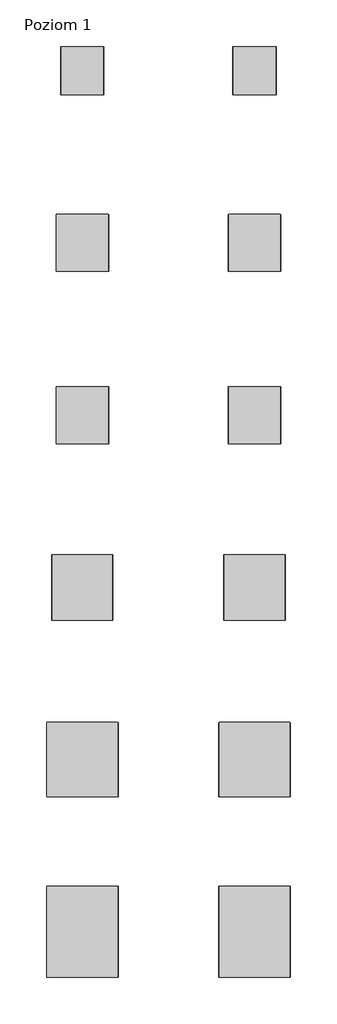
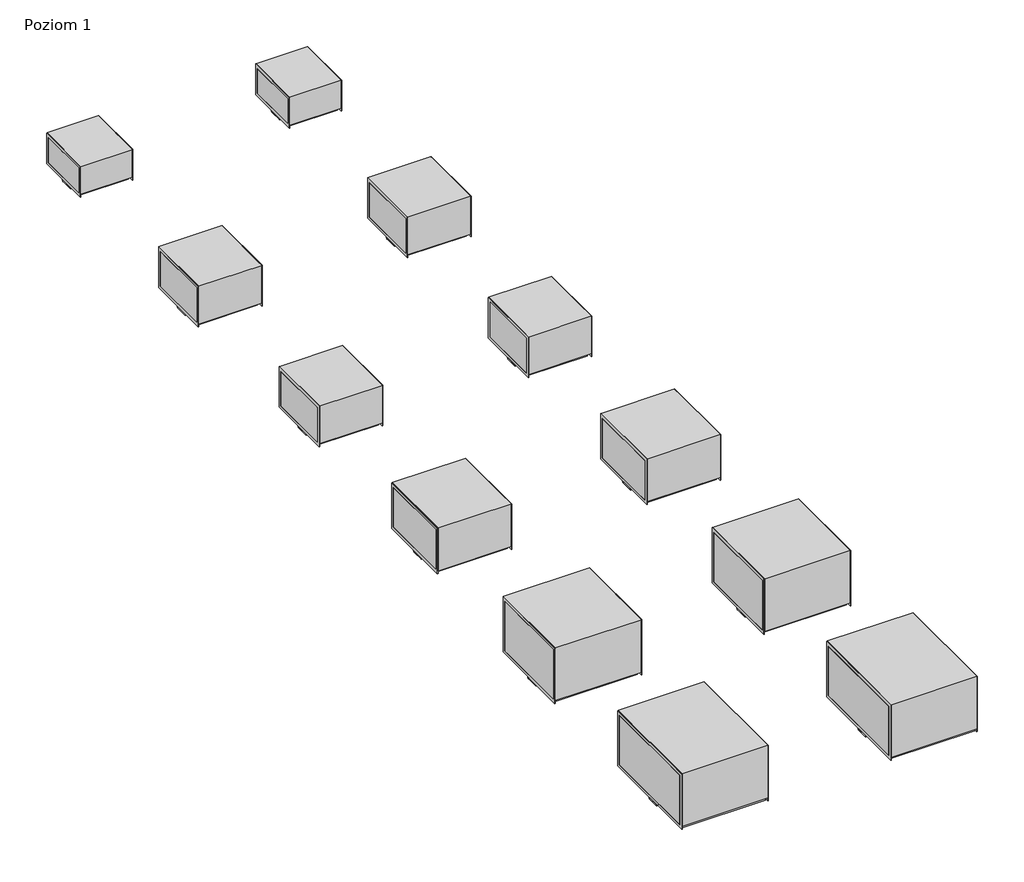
# One storey: 12 unitary equipment elements.
"""IFC4 building model written with IfcOpenShell, lengths in millimetres."""

from ifc_helpers import new_model, si_unit, origin, place, context, project, spatial, transform, mapped, element, save
from components import unitary_equipment_6650e67d, unitary_equipment_f6c58911, unitary_equipment_9d74fd59, unitary_equipment_093180e0, unitary_equipment_98ae8f91

model = new_model("IFC4")

# Units and contexts
model_context = context("Model", 3, world=origin())
ifc_project = project(units=[si_unit("LENGTHUNIT", "METRE", prefix="MILLI")], contexts=[model_context])

# Site, building, storey
site = spatial("IfcSite", under=ifc_project)
building = spatial("IfcBuilding", under=site)
storey = spatial("IfcBuildingStorey", under=building, Name="Poziom 1", Elevation=0.0)

# Unitary equipment
placement = place(None, origin())
unitary_equipment_shape = unitary_equipment_6650e67d(model_context)
element("IfcUnitaryEquipment", 1, ObjectType="VE-Wentylator-ParaForma-Harmann-DRBI_EC-Nawiewny : 050/25/1750EC", at=placement, inside=storey, context=model_context, shape_type="MappedRepresentation", body=[
    mapped(unitary_equipment_shape, transform((6582.5, 3000.0, 0.0), x_axis=(1.0, 0.0, 0.0), y_axis=(0.0, 1.0, 0.0), z_axis=(0.0, 0.0, 1.0))),
])
unitary_equipment_2_shape = unitary_equipment_f6c58911(model_context)
element("IfcUnitaryEquipment", 2, ObjectType="VE-Wentylator-ParaForma-Harmann-DRBI_EC-Nawiewny : 060/35/2800EC", at=placement, inside=storey, context=model_context, shape_type="MappedRepresentation", body=[
    mapped(unitary_equipment_2_shape, transform((6582.5, 1000.0, 0.0), x_axis=(1.0, 0.0, 0.0), y_axis=(0.0, 1.0, 0.0), z_axis=(0.0, 0.0, 1.0))),
])
element("IfcUnitaryEquipment", 3, ObjectType="VE-Wentylator-ParaForma-Harmann-DRBI_EC-Nawiewny : 060/35/4300EC", at=placement, inside=storey, context=model_context, shape_type="MappedRepresentation", body=[
    mapped(unitary_equipment_2_shape, transform((6582.5, -1000.0, 0.0), x_axis=(1.0, 0.0, 0.0), y_axis=(0.0, 1.0, 0.0), z_axis=(0.0, 0.0, 1.0))),
])
unitary_equipment_3_shape = unitary_equipment_9d74fd59(model_context)
element("IfcUnitaryEquipment", 4, ObjectType="VE-Wentylator-ParaForma-Harmann-DRBI_EC-Nawiewny : 070/40/4900EC", at=placement, inside=storey, context=model_context, shape_type="MappedRepresentation", body=[
    mapped(unitary_equipment_3_shape, transform((6582.5, -3000.0, 0.0), x_axis=(1.0, 0.0, 0.0), y_axis=(0.0, 1.0, 0.0), z_axis=(0.0, 0.0, 1.0))),
])
unitary_equipment_4_shape = unitary_equipment_093180e0(model_context)
element("IfcUnitaryEquipment", 5, ObjectType="VE-Wentylator-ParaForma-Harmann-DRBI_EC-Nawiewny : 080/50/8500TEC", at=placement, inside=storey, context=model_context, shape_type="MappedRepresentation", body=[
    mapped(unitary_equipment_4_shape, transform((6582.5, -5000.0, 0.0), x_axis=(1.0, 0.0, 0.0), y_axis=(0.0, 1.0, 0.0), z_axis=(0.0, 0.0, 1.0))),
])
unitary_equipment_5_shape = unitary_equipment_98ae8f91(model_context)
element("IfcUnitaryEquipment", 6, ObjectType="VE-Wentylator-ParaForma-Harmann-DRBI_EC-Nawiewny : 100/50/11500TEC", at=placement, inside=storey, context=model_context, shape_type="MappedRepresentation", body=[
    mapped(unitary_equipment_5_shape, transform((6582.5, -7000.0, 0.0), x_axis=(1.0, 0.0, 0.0), y_axis=(0.0, 1.0, 0.0), z_axis=(0.0, 0.0, 1.0))),
])
element("IfcUnitaryEquipment", 7, ObjectType="VE-Wentylator-ParaForma-Harmann-DRBI_EC-Wywiewny : 050/25/1750EC", at=placement, inside=storey, context=model_context, shape_type="MappedRepresentation", body=[
    mapped(unitary_equipment_shape, transform((4582.5, 3000.0, 0.0), x_axis=(1.0, 0.0, 0.0), y_axis=(0.0, 1.0, 0.0), z_axis=(0.0, 0.0, 1.0))),
])
element("IfcUnitaryEquipment", 8, ObjectType="VE-Wentylator-ParaForma-Harmann-DRBI_EC-Wywiewny : 060/35/2800EC", at=placement, inside=storey, context=model_context, shape_type="MappedRepresentation", body=[
    mapped(unitary_equipment_2_shape, transform((4582.5, 1000.0, 0.0), x_axis=(1.0, 0.0, 0.0), y_axis=(0.0, 1.0, 0.0), z_axis=(0.0, 0.0, 1.0))),
])
element("IfcUnitaryEquipment", 9, ObjectType="VE-Wentylator-ParaForma-Harmann-DRBI_EC-Wywiewny : 060/35/4300EC", at=placement, inside=storey, context=model_context, shape_type="MappedRepresentation", body=[
    mapped(unitary_equipment_2_shape, transform((4582.5, -1000.0, 0.0), x_axis=(1.0, 0.0, 0.0), y_axis=(0.0, 1.0, 0.0), z_axis=(0.0, 0.0, 1.0))),
])
element("IfcUnitaryEquipment", 10, ObjectType="VE-Wentylator-ParaForma-Harmann-DRBI_EC-Wywiewny : 070/40/4900EC", at=placement, inside=storey, context=model_context, shape_type="MappedRepresentation", body=[
    mapped(unitary_equipment_3_shape, transform((4582.5, -3000.0, 0.0), x_axis=(1.0, 0.0, 0.0), y_axis=(0.0, 1.0, 0.0), z_axis=(0.0, 0.0, 1.0))),
])
element("IfcUnitaryEquipment", 11, ObjectType="VE-Wentylator-ParaForma-Harmann-DRBI_EC-Wywiewny : 080/50/8500TEC", at=placement, inside=storey, context=model_context, shape_type="MappedRepresentation", body=[
    mapped(unitary_equipment_4_shape, transform((4582.5, -5000.0, 0.0), x_axis=(1.0, 0.0, 0.0), y_axis=(0.0, 1.0, 0.0), z_axis=(0.0, 0.0, 1.0))),
])
element("IfcUnitaryEquipment", 12, ObjectType="VE-Wentylator-ParaForma-Harmann-DRBI_EC-Wywiewny : 100/50/11500TEC", at=placement, inside=storey, context=model_context, shape_type="MappedRepresentation", body=[
    mapped(unitary_equipment_5_shape, transform((4582.5, -7000.0, 0.0), x_axis=(1.0, 0.0, 0.0), y_axis=(0.0, 1.0, 0.0), z_axis=(0.0, 0.0, 1.0))),
])

save(model, "model.ifc")
